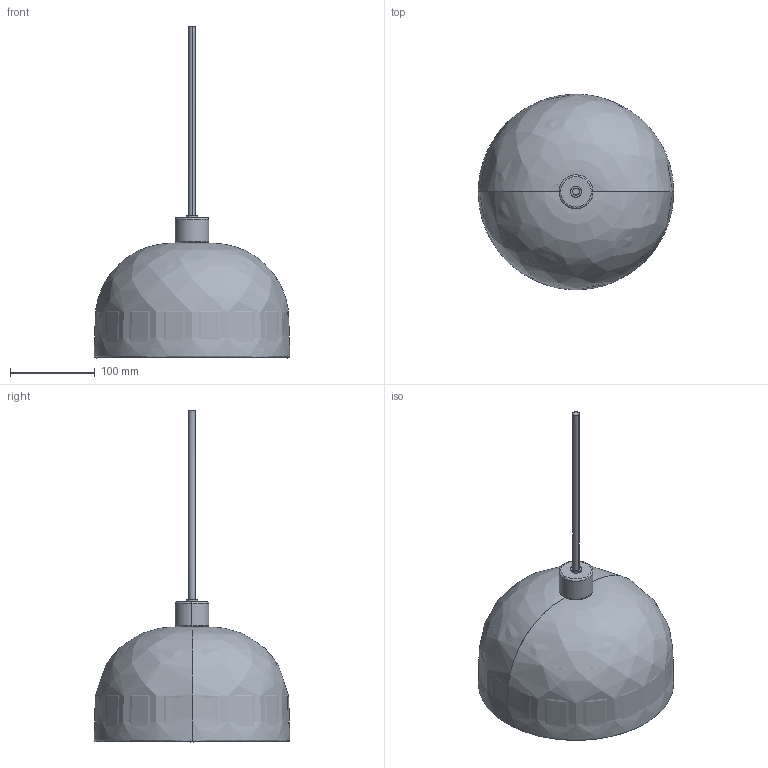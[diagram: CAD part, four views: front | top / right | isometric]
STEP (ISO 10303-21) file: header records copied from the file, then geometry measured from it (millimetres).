
FILE_DESCRIPTION(/* description */ (''),/* implementation_level */ '2;1');
FILE_NAME(/* name */ 'medium pendant lamp assembled_16-06-2016',/* time_stamp */ '2016-06-16T13:55:54+02:00',/* author */ (''),/* organization */ (''),/* preprocessor_version */ 'ST-DEVELOPER v15',/* originating_system */ '',/* authorisation */ '');
FILE_SCHEMA (('AUTOMOTIVE_DESIGN'));
Length unit declared in the file: millimetre
Products named in the file (1): Document
Bounding box: 230.43 x 230.36 x 391.43 mm (x, y, z)
Volume: 257603 mm3; surface area: 321830.2 mm2
Topology: 10 solids, 10 shells, 84 faces, 169 edges, 106 vertices
Faces by surface type: bspline 62, plane 22
Entity records: 7704 total; most frequent: CARTESIAN_POINT 6684, ORIENTED_EDGE 338, EDGE_CURVE 169, VERTEX_POINT 106, EDGE_LOOP 99, ADVANCED_FACE 84, FACE_OUTER_BOUND 84, DIRECTION 26
